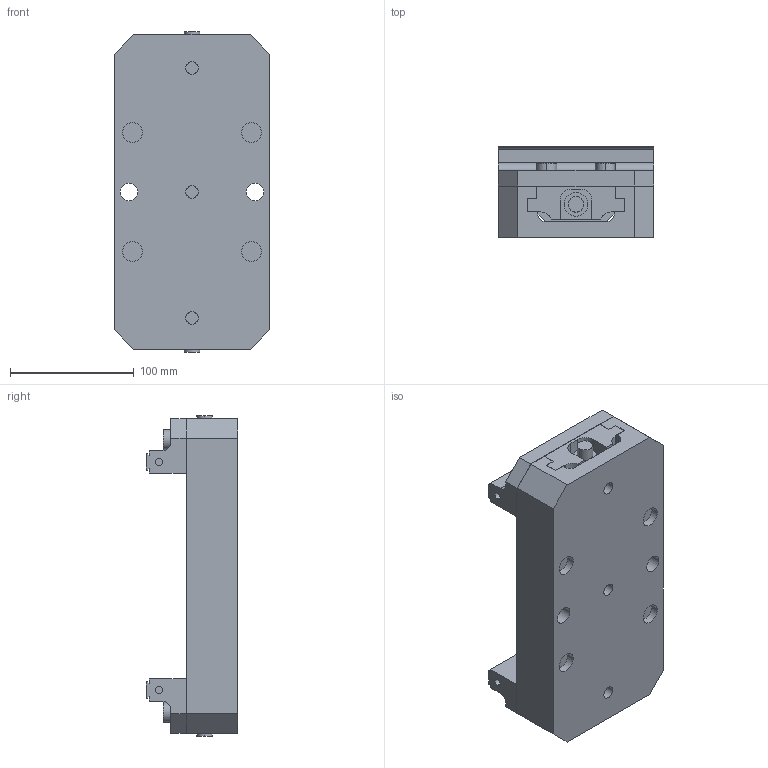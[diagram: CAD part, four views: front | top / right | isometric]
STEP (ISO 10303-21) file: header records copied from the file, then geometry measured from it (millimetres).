
FILE_DESCRIPTION (( 'STEP AP214' ), '1' );
FILE_NAME ('D_V510M.STEP', '2020-03-13T00:18:05', ( '' ), ( '' ), 'SwSTEP 2.0', 'SolidWorks 2018', '' );
FILE_SCHEMA (( 'AUTOMOTIVE_DESIGN' ));
Length unit declared in the file: millimetre
Products named in the file (4): D_V562M-5; D_V510M; D_V510M-1; D_V562M-2
Assembly tree (5 placements, depth 2):
  D_V510M
    D_V510M-1
    D_V562M-2  x2
    D_V562M-5  x2
Bounding box: 125.73 x 73.65 x 258.32 mm (x, y, z)
Volume: 1178595.5 mm3; surface area: 205940.8 mm2
Topology: 5 solids, 5 shells, 247 faces, 650 edges, 428 vertices
Faces by surface type: plane 145, cylinder 102
Entity records: 6123 total; most frequent: CARTESIAN_POINT 1091, DIRECTION 889, ORIENTED_EDGE 846, EDGE_CURVE 423, AXIS2_PLACEMENT_3D 310, VERTEX_POINT 278, LINE 269, VECTOR 269
